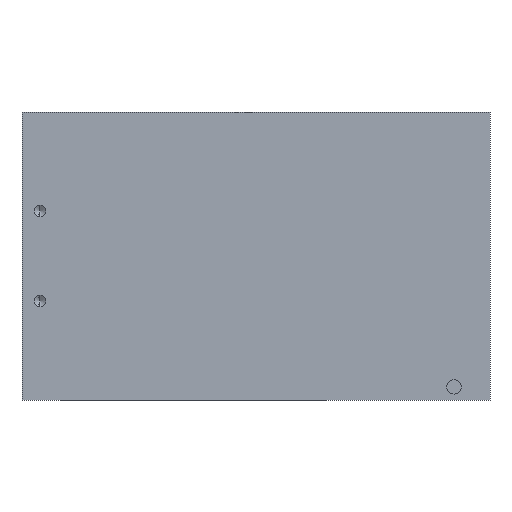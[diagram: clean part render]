
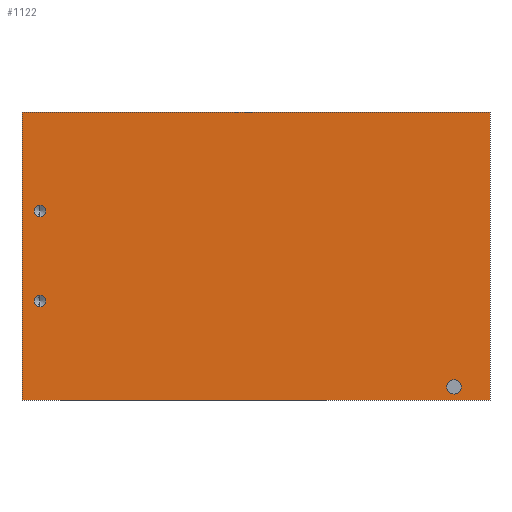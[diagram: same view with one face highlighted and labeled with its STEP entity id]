
A CAD part, front view. The second image highlights one B-rep face of the part: STEP entity #1122.
In plain terms, the highlighted planar face has unit normal (0, -1, 0).
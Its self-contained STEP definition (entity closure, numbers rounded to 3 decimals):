
#3 = DIRECTION ( 'NONE',  ( 0., 0., -1. ) ) ;
#21 = CARTESIAN_POINT ( 'NONE',  ( -60., -39., 25.85 ) ) ;
#76 = EDGE_LOOP ( 'NONE', ( #914, #924 ) ) ;
#114 = CARTESIAN_POINT ( 'NONE',  ( 65., -39., 80. ) ) ;
#153 = CARTESIAN_POINT ( 'NONE',  ( -60., -39., 29.15 ) ) ;
#199 = CARTESIAN_POINT ( 'NONE',  ( -65., -39., 0. ) ) ;
#253 = CIRCLE ( 'NONE', #1686, 2. ) ;
#258 = ORIENTED_EDGE ( 'NONE', *, *, #468, .T. ) ;
#272 = CARTESIAN_POINT ( 'NONE',  ( 65., -39., 0. ) ) ;
#293 = DIRECTION ( 'NONE',  ( 0., -1., 0. ) ) ;
#305 = CARTESIAN_POINT ( 'NONE',  ( -65., -39., 80. ) ) ;
#306 = EDGE_CURVE ( 'NONE', #1988, #612, #1851, .T. ) ;
#311 = DIRECTION ( 'NONE',  ( 0., 0., 1. ) ) ;
#316 = VERTEX_POINT ( 'NONE', #1178 ) ;
#317 = VECTOR ( 'NONE', #1332, 1000. ) ;
#327 = CARTESIAN_POINT ( 'NONE',  ( 55., -39., 1.65 ) ) ;
#330 = DIRECTION ( 'NONE',  ( 0., -1., 0. ) ) ;
#390 = AXIS2_PLACEMENT_3D ( 'NONE', #483, #330, #954 ) ;
#406 = DIRECTION ( 'NONE',  ( 0., 0., 1. ) ) ;
#434 = EDGE_CURVE ( 'NONE', #1770, #747, #1073, .T. ) ;
#442 = DIRECTION ( 'NONE',  ( 0., -1., 0. ) ) ;
#447 = DIRECTION ( 'NONE',  ( 1., 0., 0. ) ) ;
#468 = EDGE_CURVE ( 'NONE', #785, #1988, #1251, .T. ) ;
#483 = CARTESIAN_POINT ( 'NONE',  ( -60., -39., 27.5 ) ) ;
#515 = AXIS2_PLACEMENT_3D ( 'NONE', #1889, #442, #1569 ) ;
#540 = LINE ( 'NONE', #114, #563 ) ;
#547 = EDGE_CURVE ( 'NONE', #2020, #316, #800, .T. ) ;
#548 = CARTESIAN_POINT ( 'NONE',  ( -60., -39., 52.5 ) ) ;
#563 = VECTOR ( 'NONE', #1220, 1000. ) ;
#568 = EDGE_CURVE ( 'NONE', #785, #1034, #1985, .T. ) ;
#583 = EDGE_LOOP ( 'NONE', ( #846, #714 ) ) ;
#595 = AXIS2_PLACEMENT_3D ( 'NONE', #1593, #2072, #1133 ) ;
#612 = VERTEX_POINT ( 'NONE', #272 ) ;
#641 = CIRCLE ( 'NONE', #515, 1.65 ) ;
#679 = EDGE_CURVE ( 'NONE', #747, #1770, #641, .T. ) ;
#701 = ORIENTED_EDGE ( 'NONE', *, *, #306, .T. ) ;
#714 = ORIENTED_EDGE ( 'NONE', *, *, #547, .F. ) ;
#726 = CARTESIAN_POINT ( 'NONE',  ( 55., -39., 3.65 ) ) ;
#731 = FACE_BOUND ( 'NONE', #76, .T. ) ;
#747 = VERTEX_POINT ( 'NONE', #153 ) ;
#773 = AXIS2_PLACEMENT_3D ( 'NONE', #1414, #293, #776 ) ;
#776 = DIRECTION ( 'NONE',  ( 0., 0., -1. ) ) ;
#782 = FACE_BOUND ( 'NONE', #583, .T. ) ;
#785 = VERTEX_POINT ( 'NONE', #1433 ) ;
#800 = CIRCLE ( 'NONE', #773, 1.65 ) ;
#846 = ORIENTED_EDGE ( 'NONE', *, *, #1868, .F. ) ;
#914 = ORIENTED_EDGE ( 'NONE', *, *, #434, .F. ) ;
#924 = ORIENTED_EDGE ( 'NONE', *, *, #679, .F. ) ;
#936 = VECTOR ( 'NONE', #447, 1000. ) ;
#939 = CARTESIAN_POINT ( 'NONE',  ( 55., -39., 3.65 ) ) ;
#949 = AXIS2_PLACEMENT_3D ( 'NONE', #939, #1903, #311 ) ;
#954 = DIRECTION ( 'NONE',  ( 0., 0., -1. ) ) ;
#1009 = ORIENTED_EDGE ( 'NONE', *, *, #1114, .F. ) ;
#1031 = AXIS2_PLACEMENT_3D ( 'NONE', #548, #1179, #1656 ) ;
#1034 = VERTEX_POINT ( 'NONE', #1717 ) ;
#1053 = CARTESIAN_POINT ( 'NONE',  ( -60., -39., 54.15 ) ) ;
#1073 = CIRCLE ( 'NONE', #390, 1.65 ) ;
#1101 = ORIENTED_EDGE ( 'NONE', *, *, #1973, .F. ) ;
#1114 = EDGE_CURVE ( 'NONE', #1800, #1620, #1816, .T. ) ;
#1122 = ADVANCED_FACE ( 'NONE', ( #1890, #782, #731, #2042 ), #1924, .F. ) ;
#1133 = DIRECTION ( 'NONE',  ( 0., 0., 1. ) ) ;
#1175 = CIRCLE ( 'NONE', #1031, 1.65 ) ;
#1178 = CARTESIAN_POINT ( 'NONE',  ( -60., -39., 50.85 ) ) ;
#1179 = DIRECTION ( 'NONE',  ( 0., -1., 0. ) ) ;
#1220 = DIRECTION ( 'NONE',  ( 0., 0., -1. ) ) ;
#1251 = LINE ( 'NONE', #305, #1911 ) ;
#1332 = DIRECTION ( 'NONE',  ( 1., 0., 0. ) ) ;
#1354 = CARTESIAN_POINT ( 'NONE',  ( -65., -39., 0. ) ) ;
#1403 = EDGE_LOOP ( 'NONE', ( #1794, #1009 ) ) ;
#1414 = CARTESIAN_POINT ( 'NONE',  ( -60., -39., 52.5 ) ) ;
#1433 = CARTESIAN_POINT ( 'NONE',  ( -65., -39., 80. ) ) ;
#1569 = DIRECTION ( 'NONE',  ( 0., 0., -1. ) ) ;
#1593 = CARTESIAN_POINT ( 'NONE',  ( -65., -39., 80. ) ) ;
#1620 = VERTEX_POINT ( 'NONE', #1835 ) ;
#1656 = DIRECTION ( 'NONE',  ( 0., 0., -1. ) ) ;
#1672 = ORIENTED_EDGE ( 'NONE', *, *, #568, .F. ) ;
#1686 = AXIS2_PLACEMENT_3D ( 'NONE', #726, #2027, #406 ) ;
#1717 = CARTESIAN_POINT ( 'NONE',  ( 65., -39., 80. ) ) ;
#1753 = EDGE_LOOP ( 'NONE', ( #701, #1101, #1672, #258 ) ) ;
#1770 = VERTEX_POINT ( 'NONE', #21 ) ;
#1794 = ORIENTED_EDGE ( 'NONE', *, *, #1997, .F. ) ;
#1800 = VERTEX_POINT ( 'NONE', #327 ) ;
#1816 = CIRCLE ( 'NONE', #949, 2. ) ;
#1835 = CARTESIAN_POINT ( 'NONE',  ( 55., -39., 5.65 ) ) ;
#1851 = LINE ( 'NONE', #199, #317 ) ;
#1868 = EDGE_CURVE ( 'NONE', #316, #2020, #1175, .T. ) ;
#1889 = CARTESIAN_POINT ( 'NONE',  ( -60., -39., 27.5 ) ) ;
#1890 = FACE_BOUND ( 'NONE', #1403, .T. ) ;
#1903 = DIRECTION ( 'NONE',  ( 0., -1., 0. ) ) ;
#1905 = CARTESIAN_POINT ( 'NONE',  ( -65., -39., 80. ) ) ;
#1911 = VECTOR ( 'NONE', #3, 1000. ) ;
#1924 = PLANE ( 'NONE',  #595 ) ;
#1973 = EDGE_CURVE ( 'NONE', #1034, #612, #540, .T. ) ;
#1985 = LINE ( 'NONE', #1905, #936 ) ;
#1988 = VERTEX_POINT ( 'NONE', #1354 ) ;
#1997 = EDGE_CURVE ( 'NONE', #1620, #1800, #253, .T. ) ;
#2020 = VERTEX_POINT ( 'NONE', #1053 ) ;
#2027 = DIRECTION ( 'NONE',  ( 0., -1., 0. ) ) ;
#2042 = FACE_OUTER_BOUND ( 'NONE', #1753, .T. ) ;
#2072 = DIRECTION ( 'NONE',  ( 0., 1., 0. ) ) ;
